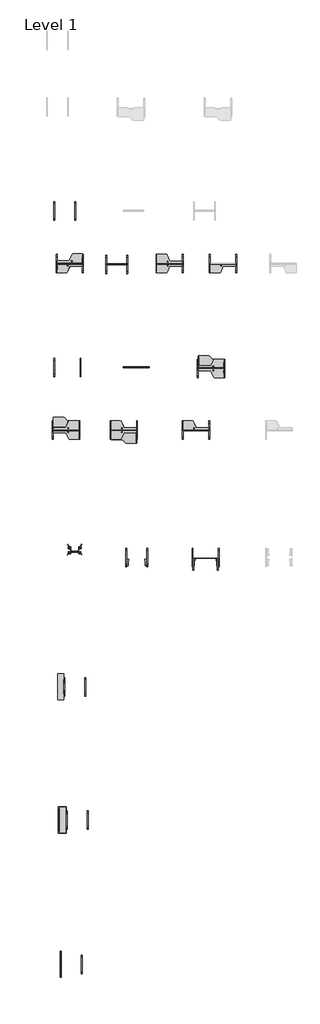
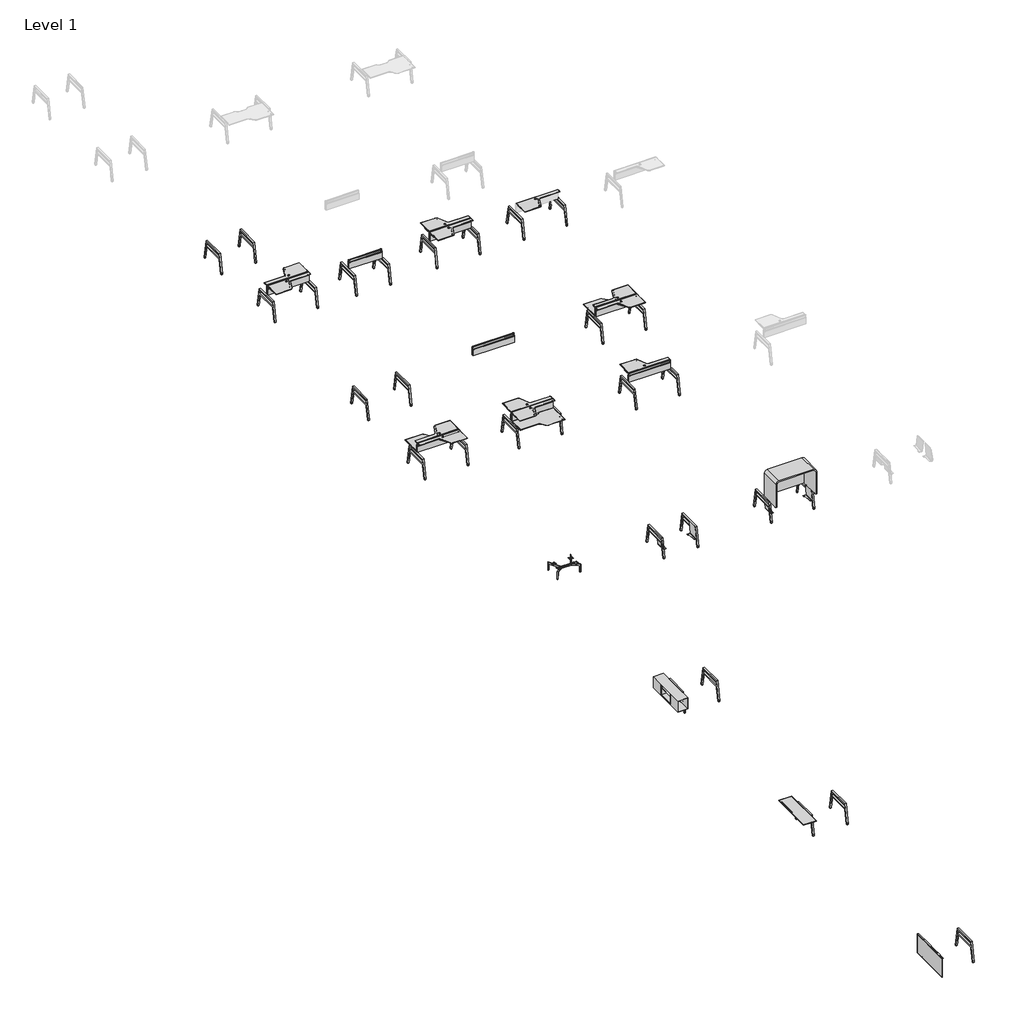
# One storey, part 1 of 4: 120 furniture elements.
"""IFC4 building model written with IfcOpenShell, lengths in millimetres."""

from ifc_helpers import new_model, si_unit, origin, place, context, project, spatial, transform, mapped, element, save
from components import furniture_07929c5c, furniture_5ffd5a01, furniture_46c987b0, furniture_36w_9987a5bf, furniture_48w_f59d3814, furniture_60w_907c8dee, furniture_60w_9ff7b1d1, furniture_60w_9ca0c22e, furniture_60w_left_193ce283, furniture_60w_left_80dfc609, furniture_60w_right_423f7bdd, furniture_60w_right_6b6f8c7d, furniture_60w_right_09d68f9b, attachment_bracket_e48f39cd, bracket_5da60547, bracket_8338e0bc, full_half_8ba35e3a, full_half_125b1efd, seat_e1c811f7

model = new_model("IFC4")

# Units and contexts
model_context = context("Model", 3, world=origin())
ifc_project = project(units=[si_unit("LENGTHUNIT", "METRE", prefix="MILLI")], contexts=[model_context])

# Site, building, storey
site = spatial("IfcSite", under=ifc_project)
building = spatial("IfcBuilding", under=site)
storey = spatial("IfcBuildingStorey", under=building, Name="Level 1", Elevation=0.0)

# Furniture
placement = place(None, origin())
furniture_shape = furniture_07929c5c(model_context)
element("IfcFurniture", 1, ObjectType="Steelcase Turnstone - Bivi - Table - Leg : 2D x 42 1/4W 28 1/2H", at=placement, inside=storey, context=model_context, shape_type="MappedRepresentation", body=[
    mapped(furniture_shape, transform((694132.3696271, -11408.9383258, 0.0), x_axis=(-1.0, 0.0, 0.0), y_axis=(0.0, -1.0, 0.0), z_axis=(0.0, 0.0, 1.0))),
])
element("IfcFurniture", 2, ObjectType="Steelcase Turnstone - Bivi - Table - Leg : 2D x 42 1/4W 28 1/2H", at=placement, inside=storey, context=model_context, shape_type="MappedRepresentation", body=[
    mapped(furniture_shape, transform((694440.7256271, -20476.7383258, 0.0), x_axis=(-1.0, 0.0, 0.0), y_axis=(0.0, -1.0, 0.0), z_axis=(0.0, 0.0, 1.0))),
])
element("IfcFurniture", 3, ObjectType="Steelcase Turnstone - Bivi - Table - Leg : 2D x 42 1/4W 28 1/2H", at=placement, inside=storey, context=model_context, shape_type="MappedRepresentation", body=[
    mapped(furniture_shape, transform((694364.1327901, -24123.6204149, 0.0), x_axis=(-1.0, 0.0, 0.0), y_axis=(0.0, -1.0, 0.0), z_axis=(0.0, 0.0, 1.0))),
])
element("IfcFurniture", 4, ObjectType="Steelcase Turnstone - Bivi - Table - Leg : 2D x 42 1/4W 28 1/2H", at=placement, inside=storey, context=model_context, shape_type="MappedRepresentation", body=[
    mapped(furniture_shape, transform((697716.9327901, -24123.6204149, 0.0), x_axis=(-1.0, 0.0, 0.0), y_axis=(0.0, -1.0, 0.0), z_axis=(0.0, 0.0, 1.0))),
])
element("IfcFurniture", 5, ObjectType="Steelcase Turnstone - Bivi - Table - Leg : 2D x 42 1/4W 28 1/2H", at=placement, inside=storey, context=model_context, shape_type="MappedRepresentation", body=[
    mapped(furniture_shape, transform((702781.22917, -20550.774976, 0.0), x_axis=(-1.0, 0.0, 0.0), y_axis=(0.0, -1.0, 0.0), z_axis=(0.0, 0.0, 1.0))),
])
element("IfcFurniture", 6, ObjectType="Steelcase Turnstone - Bivi - Table - Leg : 2D x 42 1/4W 28 1/2H", at=placement, inside=storey, context=model_context, shape_type="MappedRepresentation", body=[
    mapped(furniture_shape, transform((694572.2208352, -14467.3937544, 0.0), x_axis=(-1.0, 0.0, 0.0), y_axis=(0.0, -1.0, 0.0), z_axis=(0.0, 0.0, 1.0))),
])
element("IfcFurniture", 7, ObjectType="Steelcase Turnstone - Bivi - Table - Leg : 2D x 42 1/4W 28 1/2H", at=placement, inside=storey, context=model_context, shape_type="MappedRepresentation", body=[
    mapped(furniture_shape, transform((697154.305945, -14505.2230175, 0.0), x_axis=(-1.0, 0.0, 0.0), y_axis=(0.0, -1.0, 0.0), z_axis=(0.0, 0.0, 1.0))),
])
element("IfcFurniture", 8, ObjectType="Steelcase Turnstone - Bivi - Table - Leg : 2D x 42 1/4W 28 1/2H", at=placement, inside=storey, context=model_context, shape_type="MappedRepresentation", body=[
    mapped(furniture_shape, transform((700363.4208352, -14467.3937544, 0.0), x_axis=(-1.0, 0.0, 0.0), y_axis=(0.0, -1.0, 0.0), z_axis=(0.0, 0.0, 1.0))),
])
element("IfcFurniture", 9, ObjectType="Steelcase Turnstone - Bivi - Table - Leg : 2D x 42 1/4W 28 1/2H", at=placement, inside=storey, context=model_context, shape_type="MappedRepresentation", body=[
    mapped(furniture_shape, transform((703462.2208352, -14467.3937544, 0.0), x_axis=(-1.0, 0.0, 0.0), y_axis=(0.0, -1.0, 0.0), z_axis=(0.0, 0.0, 1.0))),
])
element("IfcFurniture", 10, ObjectType="Steelcase Turnstone - Bivi - Table - Leg : 2D x 42 1/4W 28 1/2H", at=placement, inside=storey, context=model_context, shape_type="MappedRepresentation", body=[
    mapped(furniture_shape, transform((701907.9327901, -24123.6204149, 0.0), x_axis=(-1.0, 0.0, 0.0), y_axis=(0.0, -1.0, 0.0), z_axis=(0.0, 0.0, 1.0))),
])
element("IfcFurniture", 11, ObjectType="Steelcase Turnstone - Bivi - Table - Leg : 2D x 42 1/4W 28 1/2H", at=placement, inside=storey, context=model_context, shape_type="MappedRepresentation", body=[
    mapped(furniture_shape, transform((698314.2751728, -31496.9374387, 0.0), x_axis=(-1.0, 0.0, 0.0), y_axis=(0.0, -1.0, 0.0), z_axis=(0.0, 0.0, 1.0))),
])
element("IfcFurniture", 12, ObjectType="Steelcase Turnstone - Bivi - Table - Leg : 2D x 42 1/4W 28 1/2H", at=placement, inside=storey, context=model_context, shape_type="MappedRepresentation", body=[
    mapped(furniture_shape, transform((702454.4751728, -31496.9374387, 0.0), x_axis=(-1.0, 0.0, 0.0), y_axis=(0.0, -1.0, 0.0), z_axis=(0.0, 0.0, 1.0))),
])
element("IfcFurniture", 13, ObjectType="Steelcase Turnstone - Bivi - Table - Leg : 2D x 42 1/4W 28 1/2H", at=placement, inside=storey, context=model_context, shape_type="MappedRepresentation", body=[
    mapped(furniture_shape, transform((694720.7404823, -39010.1075931, 0.0), x_axis=(-1.0, 0.0, 0.0), y_axis=(0.0, -1.0, 0.0), z_axis=(0.0, 0.0, 1.0))),
])
element("IfcFurniture", 14, ObjectType="Steelcase Turnstone - Bivi - Table - Leg : 2D x 42 1/4W 28 1/2H", at=placement, inside=storey, context=model_context, shape_type="MappedRepresentation", body=[
    mapped(furniture_shape, transform((694847.7404823, -46738.9320435, 0.0), x_axis=(-1.0, 0.0, 0.0), y_axis=(0.0, -1.0, 0.0), z_axis=(0.0, 0.0, 1.0))),
])
element("IfcFurniture", 15, ObjectType="Steelcase Turnstone - Bivi - Table - Leg : 2D x 42 1/4W 28 1/2H", at=placement, inside=storey, context=model_context, shape_type="MappedRepresentation", body=[
    mapped(furniture_shape, transform((694504.6205681, -55109.2890088, 0.0), x_axis=(-1.0, 0.0, 0.0), y_axis=(0.0, -1.0, 0.0), z_axis=(0.0, 0.0, 1.0))),
])
furniture_2_shape = furniture_5ffd5a01(model_context)
element("IfcFurniture", 16, ObjectType="Steelcase Turnstone - Bivi - Table - Leg : 2D x 42 1/4W 28 1/2H", at=placement, inside=storey, context=model_context, shape_type="MappedRepresentation", body=[
    mapped(furniture_2_shape, transform((692865.7224271, -11408.9383258, 0.0), x_axis=(1.0, 0.0, 0.0), y_axis=(0.0, 1.0, 0.0), z_axis=(0.0, 0.0, 1.0))),
])
element("IfcFurniture", 17, ObjectType="Steelcase Turnstone - Bivi - Table - Leg : 2D x 42 1/4W 28 1/2H", at=placement, inside=storey, context=model_context, shape_type="MappedRepresentation", body=[
    mapped(furniture_2_shape, transform((692865.7224271, -20476.7383258, 0.0), x_axis=(1.0, 0.0, 0.0), y_axis=(0.0, 1.0, 0.0), z_axis=(0.0, 0.0, 1.0))),
])
element("IfcFurniture", 18, ObjectType="Steelcase Turnstone - Bivi - Table - Leg : 2D x 42 1/4W 28 1/2H", at=placement, inside=storey, context=model_context, shape_type="MappedRepresentation", body=[
    mapped(furniture_2_shape, transform((692777.2911447, -24123.6204149, 0.0), x_axis=(1.0, 0.0, 0.0), y_axis=(0.0, 1.0, 0.0), z_axis=(0.0, 0.0, 1.0))),
])
element("IfcFurniture", 19, ObjectType="Steelcase Turnstone - Bivi - Table - Leg : 2D x 42 1/4W 28 1/2H", at=placement, inside=storey, context=model_context, shape_type="MappedRepresentation", body=[
    mapped(furniture_2_shape, transform((696130.0911447, -24123.6204149, 0.0), x_axis=(1.0, 0.0, 0.0), y_axis=(0.0, 1.0, 0.0), z_axis=(0.0, 0.0, 1.0))),
])
element("IfcFurniture", 20, ObjectType="Steelcase Turnstone - Bivi - Table - Leg : 2D x 42 1/4W 28 1/2H", at=placement, inside=storey, context=model_context, shape_type="MappedRepresentation", body=[
    mapped(furniture_2_shape, transform((701194.3875247, -20550.774976, 0.0), x_axis=(1.0, 0.0, 0.0), y_axis=(0.0, 1.0, 0.0), z_axis=(0.0, 0.0, 1.0))),
])
element("IfcFurniture", 21, ObjectType="Steelcase Turnstone - Bivi - Table - Leg : 2D x 42 1/4W 28 1/2H", at=placement, inside=storey, context=model_context, shape_type="MappedRepresentation", body=[
    mapped(furniture_2_shape, transform((693000.7736352, -14467.3937544, 0.0), x_axis=(1.0, 0.0, 0.0), y_axis=(0.0, 1.0, 0.0), z_axis=(0.0, 0.0, 1.0))),
])
element("IfcFurniture", 22, ObjectType="Steelcase Turnstone - Bivi - Table - Leg : 2D x 42 1/4W 28 1/2H", at=placement, inside=storey, context=model_context, shape_type="MappedRepresentation", body=[
    mapped(furniture_2_shape, transform((695887.658745, -14505.2230175, 0.0), x_axis=(1.0, 0.0, 0.0), y_axis=(0.0, 1.0, 0.0), z_axis=(0.0, 0.0, 1.0))),
])
element("IfcFurniture", 23, ObjectType="Steelcase Turnstone - Bivi - Table - Leg : 2D x 42 1/4W 28 1/2H", at=placement, inside=storey, context=model_context, shape_type="MappedRepresentation", body=[
    mapped(furniture_2_shape, transform((698791.9736352, -14467.3937544, 0.0), x_axis=(1.0, 0.0, 0.0), y_axis=(0.0, 1.0, 0.0), z_axis=(0.0, 0.0, 1.0))),
])
element("IfcFurniture", 24, ObjectType="Steelcase Turnstone - Bivi - Table - Leg : 2D x 42 1/4W 28 1/2H", at=placement, inside=storey, context=model_context, shape_type="MappedRepresentation", body=[
    mapped(furniture_2_shape, transform((701890.7736352, -14467.3937544, 0.0), x_axis=(1.0, 0.0, 0.0), y_axis=(0.0, 1.0, 0.0), z_axis=(0.0, 0.0, 1.0))),
])
element("IfcFurniture", 25, ObjectType="Steelcase Turnstone - Bivi - Table - Leg : 2D x 42 1/4W 28 1/2H", at=placement, inside=storey, context=model_context, shape_type="MappedRepresentation", body=[
    mapped(furniture_2_shape, transform((700321.0911447, -24123.6204149, 0.0), x_axis=(1.0, 0.0, 0.0), y_axis=(0.0, 1.0, 0.0), z_axis=(0.0, 0.0, 1.0))),
])
element("IfcFurniture", 26, ObjectType="Steelcase Turnstone - Bivi - Table - Leg : 2D x 42 1/4W 28 1/2H", at=placement, inside=storey, context=model_context, shape_type="MappedRepresentation", body=[
    mapped(furniture_2_shape, transform((697047.6279728, -31496.9374387, 0.0), x_axis=(1.0, 0.0, 0.0), y_axis=(0.0, 1.0, 0.0), z_axis=(0.0, 0.0, 1.0))),
])
element("IfcFurniture", 27, ObjectType="Steelcase Turnstone - Bivi - Table - Leg : 2D x 42 1/4W 28 1/2H", at=placement, inside=storey, context=model_context, shape_type="MappedRepresentation", body=[
    mapped(furniture_2_shape, transform((700883.0279728, -31496.9374387, 0.0), x_axis=(1.0, 0.0, 0.0), y_axis=(0.0, 1.0, 0.0), z_axis=(0.0, 0.0, 1.0))),
])
element("IfcFurniture", 28, ObjectType="Steelcase Turnstone - Bivi - Table - Leg : 2D x 42 1/4W 28 1/2H", at=placement, inside=storey, context=model_context, shape_type="MappedRepresentation", body=[
    mapped(furniture_2_shape, transform((693454.0932823, -39010.1075931, 0.0), x_axis=(1.0, 0.0, 0.0), y_axis=(0.0, 1.0, 0.0), z_axis=(0.0, 0.0, 1.0))),
])
element("IfcFurniture", 29, ObjectType="Steelcase Turnstone - Bivi - Table - Leg : 2D x 42 1/4W 28 1/2H", at=placement, inside=storey, context=model_context, shape_type="MappedRepresentation", body=[
    mapped(furniture_2_shape, transform((693581.0932823, -46738.9320435, 0.0), x_axis=(1.0, 0.0, 0.0), y_axis=(0.0, 1.0, 0.0), z_axis=(0.0, 0.0, 1.0))),
])
element("IfcFurniture", 30, ObjectType="Steelcase Turnstone - Bivi - Table - Leg : 2D x 42 1/4W 28 1/2H", at=placement, inside=storey, context=model_context, shape_type="MappedRepresentation", body=[
    mapped(furniture_2_shape, transform((693237.9733681, -55109.2890088, 0.0), x_axis=(1.0, 0.0, 0.0), y_axis=(0.0, 1.0, 0.0), z_axis=(0.0, 0.0, 1.0))),
])
furniture_3_shape = furniture_46c987b0(model_context)
element("IfcFurniture", 31, ObjectType="Steelcase Turnstone - Bivi - Storage - Trunk Support : Attachcment Bracket", at=placement, inside=storey, context=model_context, shape_type="MappedRepresentation", body=[
    mapped(furniture_3_shape, transform((693476.2420998, -37711.4706437, 0.0), x_axis=(0.0, -1.0000000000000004, 0.0), y_axis=(1.0000000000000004, 0.0, 0.0), z_axis=(0.0, 0.0, 1.0))),
])
furniture_36w_shape = furniture_36w_9987a5bf(model_context)
element("IfcFurniture", 32, ObjectType="Steelcase Turnstone - Bivi - Seat - Rumble Seat - Freestanding Leg : 36W", at=placement, inside=storey, context=model_context, shape_type="MappedRepresentation", body=[
    mapped(furniture_36w_shape, transform((693974.8419545, -30630.5236098, 0.0), x_axis=(1.0, 0.0, 0.0), y_axis=(0.0, 1.0, 0.0), z_axis=(0.0, 0.0, 1.0))),
])
furniture_48w_shape = furniture_48w_f59d3814(model_context)
element("IfcFurniture", 33, ObjectType="Steelcase Turnstone - Bivi - Accessories - High Sit Bracket with Modesty Panel : 48W", at=placement, inside=storey, context=model_context, shape_type="MappedRepresentation", body=[
    mapped(furniture_48w_shape, transform((695782.604345, -13878.9247336, 0.0), x_axis=(1.0, 0.0, 0.0), y_axis=(0.0, 1.0, 0.0), z_axis=(0.0, 0.0, 1.0))),
])
furniture_60w_shape = furniture_60w_907c8dee(model_context)
element("IfcFurniture", 34, ObjectType="Steelcase Turnstone - Bivi - Accessories - End Panel : 60W", at=placement, inside=storey, context=model_context, shape_type="MappedRepresentation", body=[
    mapped(furniture_60w_shape, transform((693118.8981681, -54460.5277539, 0.0), x_axis=(1.0, 0.0, 0.0), y_axis=(0.0, 1.0, 0.0), z_axis=(0.0, 0.0, 1.0))),
])
furniture_60w_2_shape = furniture_60w_9ff7b1d1(model_context)
element("IfcFurniture", 35, ObjectType="Steelcase Turnstone - Bivi - Table - End Hanging Table Top : 60W", at=placement, inside=storey, context=model_context, shape_type="MappedRepresentation", body=[
    mapped(furniture_60w_2_shape, transform((693428.6932823, -46538.2788046, 0.0), x_axis=(1.0, 0.0, 0.0), y_axis=(0.0, 1.0, 0.0), z_axis=(0.0, 0.0, 1.0))),
])
furniture_60w_3_shape = furniture_60w_9ca0c22e(model_context)
element("IfcFurniture", 36, ObjectType="Steelcase Turnstone - Bivi - Accessories - High Sit Bracket with Modesty Panel : 60W", at=placement, inside=storey, context=model_context, shape_type="MappedRepresentation", body=[
    mapped(furniture_60w_3_shape, transform((696908.5652497, -19850.4400419, 0.0), x_axis=(1.0, 0.0, 0.0), y_axis=(0.0, 1.0, 0.0), z_axis=(0.0, 0.0, 1.0))),
])
element("IfcFurniture", 37, ObjectType="Steelcase Turnstone - Bivi - Accessories - High Sit Bracket with Modesty Panel : 60W", at=placement, inside=storey, context=model_context, shape_type="MappedRepresentation", body=[
    mapped(furniture_60w_3_shape, transform((692832.3339674, -23497.322131, 0.0), x_axis=(1.0, 0.0, 0.0), y_axis=(0.0, 1.0, 0.0), z_axis=(0.0, 0.0, 1.0))),
])
element("IfcFurniture", 38, ObjectType="Steelcase Turnstone - Bivi - Accessories - High Sit Bracket with Modesty Panel : 60W", at=placement, inside=storey, context=model_context, shape_type="MappedRepresentation", body=[
    mapped(furniture_60w_3_shape, transform((696185.1339674, -23504.5006044, 0.0), x_axis=(1.0, 0.0, 0.0), y_axis=(0.0, 1.0, 0.0), z_axis=(0.0, 0.0, 1.0))),
])
element("IfcFurniture", 39, ObjectType="Steelcase Turnstone - Bivi - Accessories - High Sit Bracket with Modesty Panel : 60W", at=placement, inside=storey, context=model_context, shape_type="MappedRepresentation", body=[
    mapped(furniture_60w_3_shape, transform((701249.4303474, -19924.4766921, 0.0), x_axis=(1.0, 0.0, 0.0), y_axis=(0.0, 1.0, 0.0), z_axis=(0.0, 0.0, 1.0))),
])
element("IfcFurniture", 40, ObjectType="Steelcase Turnstone - Bivi - Accessories - High Sit Bracket with Modesty Panel : 60W", at=placement, inside=storey, context=model_context, shape_type="MappedRepresentation", body=[
    mapped(furniture_60w_3_shape, transform((693048.1192352, -13841.0954705, 0.0), x_axis=(1.0, 0.0, 0.0), y_axis=(0.0, 1.0, 0.0), z_axis=(0.0, 0.0, 1.0))),
])
element("IfcFurniture", 41, ObjectType="Steelcase Turnstone - Bivi - Accessories - High Sit Bracket with Modesty Panel : 60W", at=placement, inside=storey, context=model_context, shape_type="MappedRepresentation", body=[
    mapped(furniture_60w_3_shape, transform((698839.3192352, -13841.0954705, 0.0), x_axis=(1.0, 0.0, 0.0), y_axis=(0.0, 1.0, 0.0), z_axis=(0.0, 0.0, 1.0))),
])
element("IfcFurniture", 42, ObjectType="Steelcase Turnstone - Bivi - Accessories - High Sit Bracket with Modesty Panel : 60W", at=placement, inside=storey, context=model_context, shape_type="MappedRepresentation", body=[
    mapped(furniture_60w_3_shape, transform((700376.1339674, -23504.5006044, 0.0), x_axis=(1.0, 0.0, 0.0), y_axis=(0.0, 1.0, 0.0), z_axis=(0.0, 0.0, 1.0))),
])
furniture_60w_left_shape = furniture_60w_left_193ce283(model_context)
element("IfcFurniture", 43, ObjectType="Steelcase Turnstone - Bivi - Table - Dual Top - Upper : 60W - Left", at=placement, inside=storey, context=model_context, shape_type="MappedRepresentation", body=[
    mapped(furniture_60w_left_shape, transform((694465.6151746, -22742.5023412, 0.0), x_axis=(-1.0000000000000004, 0.0, 0.0), y_axis=(0.0, -1.0000000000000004, 0.0), z_axis=(0.0, 0.0, 1.0))),
])
element("IfcFurniture", 44, ObjectType="Steelcase Turnstone - Bivi - Table - Dual Top - Upper : 60W - Left", at=placement, inside=storey, context=model_context, shape_type="MappedRepresentation", body=[
    mapped(furniture_60w_left_shape, transform((696038.0779815, -24416.6498616, 0.0), x_axis=(1.0, 0.0, 0.0), y_axis=(0.0, 1.0, 0.0), z_axis=(0.0, 0.0, 1.0))),
])
element("IfcFurniture", 45, ObjectType="Steelcase Turnstone - Bivi - Table - Dual Top - Upper : 60W - Left", at=placement, inside=storey, context=model_context, shape_type="MappedRepresentation", body=[
    mapped(furniture_60w_left_shape, transform((702882.7115545, -19169.6569023, 0.0), x_axis=(-1.0000000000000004, 0.0, 0.0), y_axis=(0.0, -1.0000000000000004, 0.0), z_axis=(0.0, 0.0, 1.0))),
])
element("IfcFurniture", 46, ObjectType="Steelcase Turnstone - Bivi - Table - Dual Top - Upper : 60W - Left", at=placement, inside=storey, context=model_context, shape_type="MappedRepresentation", body=[
    mapped(furniture_60w_left_shape, transform((692899.2912507, -14758.7409282, 12.6390766), x_axis=(1.0, 0.0, 0.0), y_axis=(0.0, 1.0, 0.0), z_axis=(0.0, 0.0, 1.0))),
])
element("IfcFurniture", 47, ObjectType="Steelcase Turnstone - Bivi - Table - Dual Top - Upper : 60W - Left", at=placement, inside=storey, context=model_context, shape_type="MappedRepresentation", body=[
    mapped(furniture_60w_left_shape, transform((698690.4912507, -14758.7409282, 12.6390766), x_axis=(1.0, 0.0, 0.0), y_axis=(0.0, 1.0, 0.0), z_axis=(0.0, 0.0, 1.0))),
])
element("IfcFurniture", 48, ObjectType="Steelcase Turnstone - Bivi - Table - Dual Top - Upper : 60W - Left", at=placement, inside=storey, context=model_context, shape_type="MappedRepresentation", body=[
    mapped(furniture_60w_left_shape, transform((701789.2912507, -14758.7409282, 12.6390766), x_axis=(1.0, 0.0, 0.0), y_axis=(0.0, 1.0, 0.0), z_axis=(0.0, 0.0, 1.0))),
])
furniture_60w_left_2_shape = furniture_60w_left_80dfc609(model_context)
element("IfcFurniture", 49, ObjectType="Steelcase Turnstone - Bivi - Table - Dual Top - Upper : 60W - Left", at=placement, inside=storey, context=model_context, shape_type="MappedRepresentation", body=[
    mapped(furniture_60w_left_2_shape, transform((698690.4912507, -13088.4157348, 12.6390766), x_axis=(1.0, 0.0, 0.0), y_axis=(0.0, 1.0, 0.0), z_axis=(0.0, 0.0, 1.0))),
])
furniture_60w_right_shape = furniture_60w_right_423f7bdd(model_context)
element("IfcFurniture", 50, ObjectType="Steelcase Turnstone - Bivi - Table - Dual Top - Lower : 60W - Right", at=placement, inside=storey, context=model_context, shape_type="MappedRepresentation", body=[
    mapped(furniture_60w_right_shape, transform((694458.5024304, -22750.0264851, 0.0), x_axis=(-1.0000000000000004, 0.0, 0.0), y_axis=(0.0, -1.0000000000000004, 0.0), z_axis=(0.0, 0.0, 1.0))),
])
element("IfcFurniture", 51, ObjectType="Steelcase Turnstone - Bivi - Table - Dual Top - Lower : 60W - Right", at=placement, inside=storey, context=model_context, shape_type="MappedRepresentation", body=[
    mapped(furniture_60w_right_shape, transform((696038.8407257, -24445.7811889, 0.0), x_axis=(1.0, 0.0, 0.0), y_axis=(0.0, 1.0, 0.0), z_axis=(0.0, 0.0, 1.0))),
])
element("IfcFurniture", 52, ObjectType="Steelcase Turnstone - Bivi - Table - Dual Top - Lower : 60W - Right", at=placement, inside=storey, context=model_context, shape_type="MappedRepresentation", body=[
    mapped(furniture_60w_right_shape, transform((702875.5988104, -19177.1810462, 0.0), x_axis=(-1.0000000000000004, 0.0, 0.0), y_axis=(0.0, -1.0000000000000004, 0.0), z_axis=(0.0, 0.0, 1.0))),
])
furniture_60w_right_2_shape = furniture_60w_right_6b6f8c7d(model_context)
element("IfcFurniture", 53, ObjectType="Steelcase Turnstone - Bivi - Table - Dual Top - Upper : 60W - Right", at=placement, inside=storey, context=model_context, shape_type="MappedRepresentation", body=[
    mapped(furniture_60w_right_2_shape, transform((692688.5087602, -24414.1118893, 0.0), x_axis=(1.0, 0.0, 0.0), y_axis=(0.0, 1.0, 0.0), z_axis=(0.0, 0.0, 1.0))),
])
element("IfcFurniture", 54, ObjectType="Steelcase Turnstone - Bivi - Table - Dual Top - Upper : 60W - Right", at=placement, inside=storey, context=model_context, shape_type="MappedRepresentation", body=[
    mapped(furniture_60w_right_2_shape, transform((697812.4959519, -22757.2049585, 0.0), x_axis=(-1.0000000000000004, 0.0, 0.0), y_axis=(0.0, -1.0000000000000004, 0.0), z_axis=(0.0, 0.0, 1.0))),
])
element("IfcFurniture", 55, ObjectType="Steelcase Turnstone - Bivi - Table - Dual Top - Upper : 60W - Right", at=placement, inside=storey, context=model_context, shape_type="MappedRepresentation", body=[
    mapped(furniture_60w_right_2_shape, transform((701105.6051402, -20841.2664504, 0.0), x_axis=(1.0, 0.0, 0.0), y_axis=(0.0, 1.0, 0.0), z_axis=(0.0, 0.0, 1.0))),
])
element("IfcFurniture", 56, ObjectType="Steelcase Turnstone - Bivi - Table - Dual Top - Upper : 60W - Right", at=placement, inside=storey, context=model_context, shape_type="MappedRepresentation", body=[
    mapped(furniture_60w_right_2_shape, transform((702003.4959519, -22757.2049585, 0.0), x_axis=(-1.0000000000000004, 0.0, 0.0), y_axis=(0.0, -1.0000000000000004, 0.0), z_axis=(0.0, 0.0, 1.0))),
])
furniture_60w_right_3_shape = furniture_60w_right_09d68f9b(model_context)
element("IfcFurniture", 57, ObjectType="Steelcase Turnstone - Bivi - Table - Dual Top - Upper : 60W - Right", at=placement, inside=storey, context=model_context, shape_type="MappedRepresentation", body=[
    mapped(furniture_60w_right_3_shape, transform((692899.2912507, -13064.8097073, 12.6390766), x_axis=(1.0, 0.0, 0.0), y_axis=(0.0, 1.0, 0.0), z_axis=(0.0, 0.0, 1.0))),
])
attachment_bracket_shape = attachment_bracket_e48f39cd(model_context)
element("IfcFurniture", 58, ObjectType="Steelcase Turnstone - Bivi - Storage - Trunk : Attachment Bracket", at=placement, inside=storey, context=model_context, shape_type="MappedRepresentation", body=[
    mapped(attachment_bracket_shape, transform((693451.6804207, -37711.4706437, 0.0), x_axis=(0.0, -1.0000000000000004, 0.0), y_axis=(1.0000000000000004, 0.0, 0.0), z_axis=(0.0, 0.0, 1.0))),
])
bracket_shape = bracket_5da60547(model_context)
element("IfcFurniture", 59, ObjectType="Steelcase Turnstone - Bivi - Seat - Rumble Seat - Table Frame Attachment Bracket : Bracket", at=placement, inside=storey, context=model_context, shape_type="MappedRepresentation", body=[
    mapped(bracket_shape, transform((700821.5982601, -31240.9415213, 0.2767651), x_axis=(1.0, 0.0, 0.0), y_axis=(0.0, 1.0, 0.0), z_axis=(0.0, 0.0, 1.0))),
])
bracket_2_shape = bracket_8338e0bc(model_context)
element("IfcFurniture", 60, ObjectType="Steelcase Turnstone - Bivi - Seat - Rumble Seat - Table Frame Attachment Bracket : Bracket", at=placement, inside=storey, context=model_context, shape_type="MappedRepresentation", body=[
    mapped(bracket_2_shape, transform((696986.1982601, -31240.9415213, 0.2767651), x_axis=(1.0, 0.0, 0.0), y_axis=(0.0, 1.0, 0.0), z_axis=(0.0, 0.0, 1.0))),
])
full_half_shape = full_half_8ba35e3a(model_context)
element("IfcFurniture", 61, ObjectType="Steelcase Turnstone - Bivi - Table - Leg Cover : Full/Half", at=placement, inside=storey, context=model_context, shape_type="MappedRepresentation", body=[
    mapped(full_half_shape, transform((692865.7224271, -11408.9383258, 0.0), x_axis=(1.0, 0.0, 0.0), y_axis=(0.0, 1.0, 0.0), z_axis=(0.0, 0.0, 1.0))),
])
element("IfcFurniture", 62, ObjectType="Steelcase Turnstone - Bivi - Table - Leg Cover : Full/Half", at=placement, inside=storey, context=model_context, shape_type="MappedRepresentation", body=[
    mapped(full_half_shape, transform((694132.3696271, -10335.6644269, 0.0), x_axis=(-1.0, 0.0, 0.0), y_axis=(0.0, -1.0, 0.0), z_axis=(0.0, 0.0, 1.0))),
])
element("IfcFurniture", 63, ObjectType="Steelcase Turnstone - Bivi - Table - Leg Cover : Full/Half", at=placement, inside=storey, context=model_context, shape_type="MappedRepresentation", body=[
    mapped(full_half_shape, transform((692865.7224271, -20476.7383258, 0.0), x_axis=(1.0, 0.0, 0.0), y_axis=(0.0, 1.0, 0.0), z_axis=(0.0, 0.0, 1.0))),
])
element("IfcFurniture", 64, ObjectType="Steelcase Turnstone - Bivi - Table - Leg Cover : Full/Half", at=placement, inside=storey, context=model_context, shape_type="MappedRepresentation", body=[
    mapped(full_half_shape, transform((694440.7256271, -19403.4644269, 0.0), x_axis=(-1.0, 0.0, 0.0), y_axis=(0.0, -1.0, 0.0), z_axis=(0.0, 0.0, 1.0))),
])
element("IfcFurniture", 65, ObjectType="Steelcase Turnstone - Bivi - Table - Leg Cover : Full/Half", at=placement, inside=storey, context=model_context, shape_type="MappedRepresentation", body=[
    mapped(full_half_shape, transform((692777.2911447, -24123.6204149, 0.0), x_axis=(1.0, 0.0, 0.0), y_axis=(0.0, 1.0, 0.0), z_axis=(0.0, 0.0, 1.0))),
])
element("IfcFurniture", 66, ObjectType="Steelcase Turnstone - Bivi - Table - Leg Cover : Full/Half", at=placement, inside=storey, context=model_context, shape_type="MappedRepresentation", body=[
    mapped(full_half_shape, transform((694364.1327901, -23050.346516, 0.0), x_axis=(-1.0, 0.0, 0.0), y_axis=(0.0, -1.0, 0.0), z_axis=(0.0, 0.0, 1.0))),
])
element("IfcFurniture", 67, ObjectType="Steelcase Turnstone - Bivi - Table - Leg Cover : Full/Half", at=placement, inside=storey, context=model_context, shape_type="MappedRepresentation", body=[
    mapped(full_half_shape, transform((696130.0911447, -24123.6204149, 0.0), x_axis=(1.0, 0.0, 0.0), y_axis=(0.0, 1.0, 0.0), z_axis=(0.0, 0.0, 1.0))),
])
element("IfcFurniture", 68, ObjectType="Steelcase Turnstone - Bivi - Table - Leg Cover : Full/Half", at=placement, inside=storey, context=model_context, shape_type="MappedRepresentation", body=[
    mapped(full_half_shape, transform((697716.9327901, -23050.346516, 0.0), x_axis=(-1.0, 0.0, 0.0), y_axis=(0.0, -1.0, 0.0), z_axis=(0.0, 0.0, 1.0))),
])
element("IfcFurniture", 69, ObjectType="Steelcase Turnstone - Bivi - Table - Leg Cover : Full/Half", at=placement, inside=storey, context=model_context, shape_type="MappedRepresentation", body=[
    mapped(full_half_shape, transform((701194.3875247, -20550.774976, 0.0), x_axis=(1.0, 0.0, 0.0), y_axis=(0.0, 1.0, 0.0), z_axis=(0.0, 0.0, 1.0))),
])
element("IfcFurniture", 70, ObjectType="Steelcase Turnstone - Bivi - Table - Leg Cover : Full/Half", at=placement, inside=storey, context=model_context, shape_type="MappedRepresentation", body=[
    mapped(full_half_shape, transform((702781.22917, -19477.5010771, 0.0), x_axis=(-1.0, 0.0, 0.0), y_axis=(0.0, -1.0, 0.0), z_axis=(0.0, 0.0, 1.0))),
])
element("IfcFurniture", 71, ObjectType="Steelcase Turnstone - Bivi - Table - Leg Cover : Full/Half", at=placement, inside=storey, context=model_context, shape_type="MappedRepresentation", body=[
    mapped(full_half_shape, transform((693000.7736352, -14467.3937544, 0.0), x_axis=(1.0, 0.0, 0.0), y_axis=(0.0, 1.0, 0.0), z_axis=(0.0, 0.0, 1.0))),
])
element("IfcFurniture", 72, ObjectType="Steelcase Turnstone - Bivi - Table - Leg Cover : Full/Half", at=placement, inside=storey, context=model_context, shape_type="MappedRepresentation", body=[
    mapped(full_half_shape, transform((694572.2208352, -13394.1198555, 0.0), x_axis=(-1.0, 0.0, 0.0), y_axis=(0.0, -1.0, 0.0), z_axis=(0.0, 0.0, 1.0))),
])
element("IfcFurniture", 73, ObjectType="Steelcase Turnstone - Bivi - Table - Leg Cover : Full/Half", at=placement, inside=storey, context=model_context, shape_type="MappedRepresentation", body=[
    mapped(full_half_shape, transform((695887.658745, -14505.2230175, 0.0), x_axis=(1.0, 0.0, 0.0), y_axis=(0.0, 1.0, 0.0), z_axis=(0.0, 0.0, 1.0))),
])
element("IfcFurniture", 74, ObjectType="Steelcase Turnstone - Bivi - Table - Leg Cover : Full/Half", at=placement, inside=storey, context=model_context, shape_type="MappedRepresentation", body=[
    mapped(full_half_shape, transform((697154.305945, -13431.9491186, 0.0), x_axis=(-1.0, 0.0, 0.0), y_axis=(0.0, -1.0, 0.0), z_axis=(0.0, 0.0, 1.0))),
])
element("IfcFurniture", 75, ObjectType="Steelcase Turnstone - Bivi - Table - Leg Cover : Full/Half", at=placement, inside=storey, context=model_context, shape_type="MappedRepresentation", body=[
    mapped(full_half_shape, transform((698791.9736352, -14467.3937544, 0.0), x_axis=(1.0, 0.0, 0.0), y_axis=(0.0, 1.0, 0.0), z_axis=(0.0, 0.0, 1.0))),
])
element("IfcFurniture", 76, ObjectType="Steelcase Turnstone - Bivi - Table - Leg Cover : Full/Half", at=placement, inside=storey, context=model_context, shape_type="MappedRepresentation", body=[
    mapped(full_half_shape, transform((700363.4208352, -13394.1198555, 0.0), x_axis=(-1.0, 0.0, 0.0), y_axis=(0.0, -1.0, 0.0), z_axis=(0.0, 0.0, 1.0))),
])
element("IfcFurniture", 77, ObjectType="Steelcase Turnstone - Bivi - Table - Leg Cover : Full/Half", at=placement, inside=storey, context=model_context, shape_type="MappedRepresentation", body=[
    mapped(full_half_shape, transform((701890.7736352, -14467.3937544, 0.0), x_axis=(1.0, 0.0, 0.0), y_axis=(0.0, 1.0, 0.0), z_axis=(0.0, 0.0, 1.0))),
])
element("IfcFurniture", 78, ObjectType="Steelcase Turnstone - Bivi - Table - Leg Cover : Full/Half", at=placement, inside=storey, context=model_context, shape_type="MappedRepresentation", body=[
    mapped(full_half_shape, transform((700321.0911447, -24123.6204149, 0.0), x_axis=(1.0, 0.0, 0.0), y_axis=(0.0, 1.0, 0.0), z_axis=(0.0, 0.0, 1.0))),
])
element("IfcFurniture", 79, ObjectType="Steelcase Turnstone - Bivi - Table - Leg Cover : Full/Half", at=placement, inside=storey, context=model_context, shape_type="MappedRepresentation", body=[
    mapped(full_half_shape, transform((701907.9327901, -23050.346516, 0.0), x_axis=(-1.0, 0.0, 0.0), y_axis=(0.0, -1.0, 0.0), z_axis=(0.0, 0.0, 1.0))),
])
element("IfcFurniture", 80, ObjectType="Steelcase Turnstone - Bivi - Table - Leg Cover : Full/Half", at=placement, inside=storey, context=model_context, shape_type="MappedRepresentation", body=[
    mapped(full_half_shape, transform((697047.6279728, -31496.9374387, 0.0), x_axis=(1.0, 0.0, 0.0), y_axis=(0.0, 1.0, 0.0), z_axis=(0.0, 0.0, 1.0))),
])
element("IfcFurniture", 81, ObjectType="Steelcase Turnstone - Bivi - Table - Leg Cover : Full/Half", at=placement, inside=storey, context=model_context, shape_type="MappedRepresentation", body=[
    mapped(full_half_shape, transform((698314.2751728, -30423.6635398, 0.0), x_axis=(-1.0, 0.0, 0.0), y_axis=(0.0, -1.0, 0.0), z_axis=(0.0, 0.0, 1.0))),
])
element("IfcFurniture", 82, ObjectType="Steelcase Turnstone - Bivi - Table - Leg Cover : Full/Half", at=placement, inside=storey, context=model_context, shape_type="MappedRepresentation", body=[
    mapped(full_half_shape, transform((700883.0279728, -31496.9374387, 0.0), x_axis=(1.0, 0.0, 0.0), y_axis=(0.0, 1.0, 0.0), z_axis=(0.0, 0.0, 1.0))),
])
element("IfcFurniture", 83, ObjectType="Steelcase Turnstone - Bivi - Table - Leg Cover : Full/Half", at=placement, inside=storey, context=model_context, shape_type="MappedRepresentation", body=[
    mapped(full_half_shape, transform((702454.4751728, -30423.6635398, 0.0), x_axis=(-1.0, 0.0, 0.0), y_axis=(0.0, -1.0, 0.0), z_axis=(0.0, 0.0, 1.0))),
])
element("IfcFurniture", 84, ObjectType="Steelcase Turnstone - Bivi - Table - Leg Cover : Full/Half", at=placement, inside=storey, context=model_context, shape_type="MappedRepresentation", body=[
    mapped(full_half_shape, transform((693454.0932823, -39010.1075931, 0.0), x_axis=(1.0, 0.0, 0.0), y_axis=(0.0, 1.0, 0.0), z_axis=(0.0, 0.0, 1.0))),
])
element("IfcFurniture", 85, ObjectType="Steelcase Turnstone - Bivi - Table - Leg Cover : Full/Half", at=placement, inside=storey, context=model_context, shape_type="MappedRepresentation", body=[
    mapped(full_half_shape, transform((694720.7404823, -37936.8336942, 0.0), x_axis=(-1.0, 0.0, 0.0), y_axis=(0.0, -1.0, 0.0), z_axis=(0.0, 0.0, 1.0))),
])
element("IfcFurniture", 86, ObjectType="Steelcase Turnstone - Bivi - Table - Leg Cover : Full/Half", at=placement, inside=storey, context=model_context, shape_type="MappedRepresentation", body=[
    mapped(full_half_shape, transform((693581.0932823, -46738.9320435, 0.0), x_axis=(1.0, 0.0, 0.0), y_axis=(0.0, 1.0, 0.0), z_axis=(0.0, 0.0, 1.0))),
])
element("IfcFurniture", 87, ObjectType="Steelcase Turnstone - Bivi - Table - Leg Cover : Full/Half", at=placement, inside=storey, context=model_context, shape_type="MappedRepresentation", body=[
    mapped(full_half_shape, transform((694847.7404823, -45665.6581446, 0.0), x_axis=(-1.0, 0.0, 0.0), y_axis=(0.0, -1.0, 0.0), z_axis=(0.0, 0.0, 1.0))),
])
element("IfcFurniture", 88, ObjectType="Steelcase Turnstone - Bivi - Table - Leg Cover : Full/Half", at=placement, inside=storey, context=model_context, shape_type="MappedRepresentation", body=[
    mapped(full_half_shape, transform((693237.9733681, -55109.2890088, 0.0), x_axis=(1.0, 0.0, 0.0), y_axis=(0.0, 1.0, 0.0), z_axis=(0.0, 0.0, 1.0))),
])
element("IfcFurniture", 89, ObjectType="Steelcase Turnstone - Bivi - Table - Leg Cover : Full/Half", at=placement, inside=storey, context=model_context, shape_type="MappedRepresentation", body=[
    mapped(full_half_shape, transform((694504.6205681, -54036.0151099, 0.0), x_axis=(-1.0, 0.0, 0.0), y_axis=(0.0, -1.0, 0.0), z_axis=(0.0, 0.0, 1.0))),
])
full_half_2_shape = full_half_125b1efd(model_context)
element("IfcFurniture", 90, ObjectType="Steelcase Turnstone - Bivi - Table - Leg Cover : Full/Half", at=placement, inside=storey, context=model_context, shape_type="MappedRepresentation", body=[
    mapped(full_half_2_shape, transform((692865.7224271, -10335.6644269, 0.0), x_axis=(1.0, 0.0, 0.0), y_axis=(0.0, 1.0, 0.0), z_axis=(0.0, 0.0, 1.0))),
])
element("IfcFurniture", 91, ObjectType="Steelcase Turnstone - Bivi - Table - Leg Cover : Full/Half", at=placement, inside=storey, context=model_context, shape_type="MappedRepresentation", body=[
    mapped(full_half_2_shape, transform((694132.3696271, -11408.9383258, 0.0), x_axis=(-1.0, 0.0, 0.0), y_axis=(0.0, -1.0, 0.0), z_axis=(0.0, 0.0, 1.0))),
])
element("IfcFurniture", 92, ObjectType="Steelcase Turnstone - Bivi - Table - Leg Cover : Full/Half", at=placement, inside=storey, context=model_context, shape_type="MappedRepresentation", body=[
    mapped(full_half_2_shape, transform((692865.7224271, -19403.4644269, 0.0), x_axis=(1.0, 0.0, 0.0), y_axis=(0.0, 1.0, 0.0), z_axis=(0.0, 0.0, 1.0))),
])
element("IfcFurniture", 93, ObjectType="Steelcase Turnstone - Bivi - Table - Leg Cover : Full/Half", at=placement, inside=storey, context=model_context, shape_type="MappedRepresentation", body=[
    mapped(full_half_2_shape, transform((694440.7256271, -20476.7383258, 0.0), x_axis=(-1.0, 0.0, 0.0), y_axis=(0.0, -1.0, 0.0), z_axis=(0.0, 0.0, 1.0))),
])
element("IfcFurniture", 94, ObjectType="Steelcase Turnstone - Bivi - Table - Leg Cover : Full/Half", at=placement, inside=storey, context=model_context, shape_type="MappedRepresentation", body=[
    mapped(full_half_2_shape, transform((692777.2911447, -23050.346516, 0.0), x_axis=(1.0, 0.0, 0.0), y_axis=(0.0, 1.0, 0.0), z_axis=(0.0, 0.0, 1.0))),
])
element("IfcFurniture", 95, ObjectType="Steelcase Turnstone - Bivi - Table - Leg Cover : Full/Half", at=placement, inside=storey, context=model_context, shape_type="MappedRepresentation", body=[
    mapped(full_half_2_shape, transform((694364.1327901, -24123.6204149, 0.0), x_axis=(-1.0, 0.0, 0.0), y_axis=(0.0, -1.0, 0.0), z_axis=(0.0, 0.0, 1.0))),
])
element("IfcFurniture", 96, ObjectType="Steelcase Turnstone - Bivi - Table - Leg Cover : Full/Half", at=placement, inside=storey, context=model_context, shape_type="MappedRepresentation", body=[
    mapped(full_half_2_shape, transform((696130.0911447, -23050.346516, 0.0), x_axis=(1.0, 0.0, 0.0), y_axis=(0.0, 1.0, 0.0), z_axis=(0.0, 0.0, 1.0))),
])
element("IfcFurniture", 97, ObjectType="Steelcase Turnstone - Bivi - Table - Leg Cover : Full/Half", at=placement, inside=storey, context=model_context, shape_type="MappedRepresentation", body=[
    mapped(full_half_2_shape, transform((697716.9327901, -24123.6204149, 0.0), x_axis=(-1.0, 0.0, 0.0), y_axis=(0.0, -1.0, 0.0), z_axis=(0.0, 0.0, 1.0))),
])
element("IfcFurniture", 98, ObjectType="Steelcase Turnstone - Bivi - Table - Leg Cover : Full/Half", at=placement, inside=storey, context=model_context, shape_type="MappedRepresentation", body=[
    mapped(full_half_2_shape, transform((701194.3875247, -19477.5010771, 0.0), x_axis=(1.0, 0.0, 0.0), y_axis=(0.0, 1.0, 0.0), z_axis=(0.0, 0.0, 1.0))),
])
element("IfcFurniture", 99, ObjectType="Steelcase Turnstone - Bivi - Table - Leg Cover : Full/Half", at=placement, inside=storey, context=model_context, shape_type="MappedRepresentation", body=[
    mapped(full_half_2_shape, transform((702781.22917, -20550.774976, 0.0), x_axis=(-1.0, 0.0, 0.0), y_axis=(0.0, -1.0, 0.0), z_axis=(0.0, 0.0, 1.0))),
])
element("IfcFurniture", 100, ObjectType="Steelcase Turnstone - Bivi - Table - Leg Cover : Full/Half", at=placement, inside=storey, context=model_context, shape_type="MappedRepresentation", body=[
    mapped(full_half_2_shape, transform((693000.7736352, -13394.1198555, 0.0), x_axis=(1.0, 0.0, 0.0), y_axis=(0.0, 1.0, 0.0), z_axis=(0.0, 0.0, 1.0))),
])
element("IfcFurniture", 101, ObjectType="Steelcase Turnstone - Bivi - Table - Leg Cover : Full/Half", at=placement, inside=storey, context=model_context, shape_type="MappedRepresentation", body=[
    mapped(full_half_2_shape, transform((694572.2208352, -14467.3937544, 0.0), x_axis=(-1.0, 0.0, 0.0), y_axis=(0.0, -1.0, 0.0), z_axis=(0.0, 0.0, 1.0))),
])
element("IfcFurniture", 102, ObjectType="Steelcase Turnstone - Bivi - Table - Leg Cover : Full/Half", at=placement, inside=storey, context=model_context, shape_type="MappedRepresentation", body=[
    mapped(full_half_2_shape, transform((695887.658745, -13431.9491186, 0.0), x_axis=(1.0, 0.0, 0.0), y_axis=(0.0, 1.0, 0.0), z_axis=(0.0, 0.0, 1.0))),
])
element("IfcFurniture", 103, ObjectType="Steelcase Turnstone - Bivi - Table - Leg Cover : Full/Half", at=placement, inside=storey, context=model_context, shape_type="MappedRepresentation", body=[
    mapped(full_half_2_shape, transform((697154.305945, -14505.2230175, 0.0), x_axis=(-1.0, 0.0, 0.0), y_axis=(0.0, -1.0, 0.0), z_axis=(0.0, 0.0, 1.0))),
])
element("IfcFurniture", 104, ObjectType="Steelcase Turnstone - Bivi - Table - Leg Cover : Full/Half", at=placement, inside=storey, context=model_context, shape_type="MappedRepresentation", body=[
    mapped(full_half_2_shape, transform((698791.9736352, -13394.1198555, 0.0), x_axis=(1.0, 0.0, 0.0), y_axis=(0.0, 1.0, 0.0), z_axis=(0.0, 0.0, 1.0))),
])
element("IfcFurniture", 105, ObjectType="Steelcase Turnstone - Bivi - Table - Leg Cover : Full/Half", at=placement, inside=storey, context=model_context, shape_type="MappedRepresentation", body=[
    mapped(full_half_2_shape, transform((700363.4208352, -14467.3937544, 0.0), x_axis=(-1.0, 0.0, 0.0), y_axis=(0.0, -1.0, 0.0), z_axis=(0.0, 0.0, 1.0))),
])
element("IfcFurniture", 106, ObjectType="Steelcase Turnstone - Bivi - Table - Leg Cover : Full/Half", at=placement, inside=storey, context=model_context, shape_type="MappedRepresentation", body=[
    mapped(full_half_2_shape, transform((701890.7736352, -13394.1198555, 0.0), x_axis=(1.0, 0.0, 0.0), y_axis=(0.0, 1.0, 0.0), z_axis=(0.0, 0.0, 1.0))),
])
element("IfcFurniture", 107, ObjectType="Steelcase Turnstone - Bivi - Table - Leg Cover : Full/Half", at=placement, inside=storey, context=model_context, shape_type="MappedRepresentation", body=[
    mapped(full_half_2_shape, transform((703462.2208352, -14467.3937544, 0.0), x_axis=(-1.0, 0.0, 0.0), y_axis=(0.0, -1.0, 0.0), z_axis=(0.0, 0.0, 1.0))),
])
element("IfcFurniture", 108, ObjectType="Steelcase Turnstone - Bivi - Table - Leg Cover : Full/Half", at=placement, inside=storey, context=model_context, shape_type="MappedRepresentation", body=[
    mapped(full_half_2_shape, transform((700321.0911447, -23050.346516, 0.0), x_axis=(1.0, 0.0, 0.0), y_axis=(0.0, 1.0, 0.0), z_axis=(0.0, 0.0, 1.0))),
])
element("IfcFurniture", 109, ObjectType="Steelcase Turnstone - Bivi - Table - Leg Cover : Full/Half", at=placement, inside=storey, context=model_context, shape_type="MappedRepresentation", body=[
    mapped(full_half_2_shape, transform((701907.9327901, -24123.6204149, 0.0), x_axis=(-1.0, 0.0, 0.0), y_axis=(0.0, -1.0, 0.0), z_axis=(0.0, 0.0, 1.0))),
])
element("IfcFurniture", 110, ObjectType="Steelcase Turnstone - Bivi - Table - Leg Cover : Full/Half", at=placement, inside=storey, context=model_context, shape_type="MappedRepresentation", body=[
    mapped(full_half_2_shape, transform((697047.6279728, -30423.6635398, 0.0), x_axis=(1.0, 0.0, 0.0), y_axis=(0.0, 1.0, 0.0), z_axis=(0.0, 0.0, 1.0))),
])
element("IfcFurniture", 111, ObjectType="Steelcase Turnstone - Bivi - Table - Leg Cover : Full/Half", at=placement, inside=storey, context=model_context, shape_type="MappedRepresentation", body=[
    mapped(full_half_2_shape, transform((698314.2751728, -31496.9374387, 0.0), x_axis=(-1.0, 0.0, 0.0), y_axis=(0.0, -1.0, 0.0), z_axis=(0.0, 0.0, 1.0))),
])
element("IfcFurniture", 112, ObjectType="Steelcase Turnstone - Bivi - Table - Leg Cover : Full/Half", at=placement, inside=storey, context=model_context, shape_type="MappedRepresentation", body=[
    mapped(full_half_2_shape, transform((700883.0279728, -30423.6635398, 0.0), x_axis=(1.0, 0.0, 0.0), y_axis=(0.0, 1.0, 0.0), z_axis=(0.0, 0.0, 1.0))),
])
element("IfcFurniture", 113, ObjectType="Steelcase Turnstone - Bivi - Table - Leg Cover : Full/Half", at=placement, inside=storey, context=model_context, shape_type="MappedRepresentation", body=[
    mapped(full_half_2_shape, transform((702454.4751728, -31496.9374387, 0.0), x_axis=(-1.0, 0.0, 0.0), y_axis=(0.0, -1.0, 0.0), z_axis=(0.0, 0.0, 1.0))),
])
element("IfcFurniture", 114, ObjectType="Steelcase Turnstone - Bivi - Table - Leg Cover : Full/Half", at=placement, inside=storey, context=model_context, shape_type="MappedRepresentation", body=[
    mapped(full_half_2_shape, transform((693454.0932823, -37936.8336942, 0.0), x_axis=(1.0, 0.0, 0.0), y_axis=(0.0, 1.0, 0.0), z_axis=(0.0, 0.0, 1.0))),
])
element("IfcFurniture", 115, ObjectType="Steelcase Turnstone - Bivi - Table - Leg Cover : Full/Half", at=placement, inside=storey, context=model_context, shape_type="MappedRepresentation", body=[
    mapped(full_half_2_shape, transform((694720.7404823, -39010.1075931, 0.0), x_axis=(-1.0, 0.0, 0.0), y_axis=(0.0, -1.0, 0.0), z_axis=(0.0, 0.0, 1.0))),
])
element("IfcFurniture", 116, ObjectType="Steelcase Turnstone - Bivi - Table - Leg Cover : Full/Half", at=placement, inside=storey, context=model_context, shape_type="MappedRepresentation", body=[
    mapped(full_half_2_shape, transform((693581.0932823, -45665.6581446, 0.0), x_axis=(1.0, 0.0, 0.0), y_axis=(0.0, 1.0, 0.0), z_axis=(0.0, 0.0, 1.0))),
])
element("IfcFurniture", 117, ObjectType="Steelcase Turnstone - Bivi - Table - Leg Cover : Full/Half", at=placement, inside=storey, context=model_context, shape_type="MappedRepresentation", body=[
    mapped(full_half_2_shape, transform((694847.7404823, -46738.9320435, 0.0), x_axis=(-1.0, 0.0, 0.0), y_axis=(0.0, -1.0, 0.0), z_axis=(0.0, 0.0, 1.0))),
])
element("IfcFurniture", 118, ObjectType="Steelcase Turnstone - Bivi - Table - Leg Cover : Full/Half", at=placement, inside=storey, context=model_context, shape_type="MappedRepresentation", body=[
    mapped(full_half_2_shape, transform((693237.9733681, -54036.0151099, 0.0), x_axis=(1.0, 0.0, 0.0), y_axis=(0.0, 1.0, 0.0), z_axis=(0.0, 0.0, 1.0))),
])
element("IfcFurniture", 119, ObjectType="Steelcase Turnstone - Bivi - Table - Leg Cover : Full/Half", at=placement, inside=storey, context=model_context, shape_type="MappedRepresentation", body=[
    mapped(full_half_2_shape, transform((694504.6205681, -55109.2890088, 0.0), x_axis=(-1.0, 0.0, 0.0), y_axis=(0.0, -1.0, 0.0), z_axis=(0.0, 0.0, 1.0))),
])
seat_shape = seat_e1c811f7(model_context)
element("IfcFurniture", 120, ObjectType="Steelcase Turnstone - Bivi - Seat - Hoodie : Seat", at=placement, inside=storey, context=model_context, shape_type="MappedRepresentation", body=[
    mapped(seat_shape, transform((698630.5899638, -31192.9200788, 0.0), x_axis=(1.0, 0.0, 0.0), y_axis=(0.0, 1.0, 0.0), z_axis=(0.0, 0.0, 1.0))),
])

save(model, "model.ifc")
